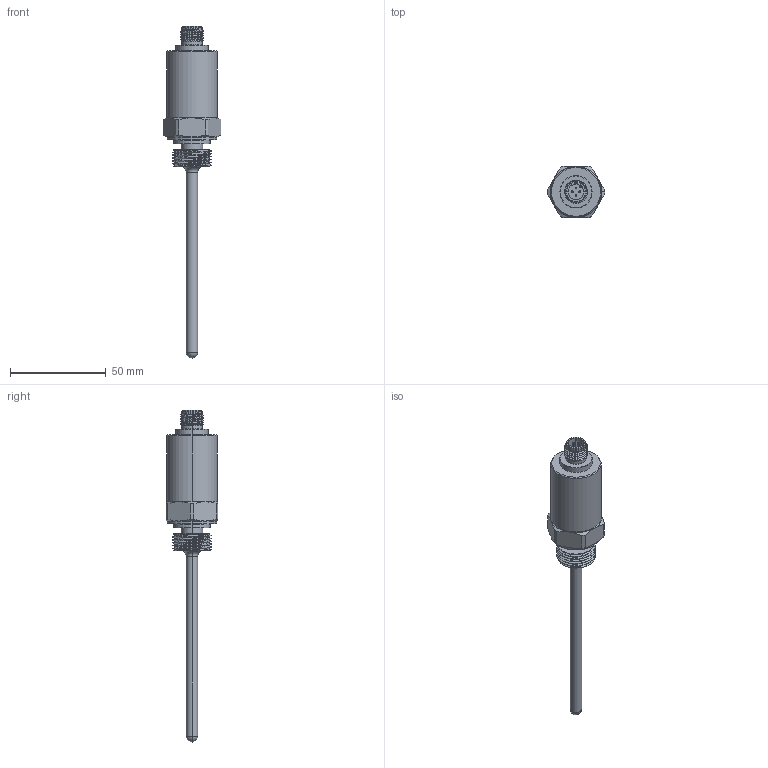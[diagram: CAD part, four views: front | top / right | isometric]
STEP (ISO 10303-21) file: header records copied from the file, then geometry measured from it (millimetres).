
FILE_DESCRIPTION (( 'STEP AP214' ), '1' );
FILE_NAME ('BTS1A33.STEP', '2025-03-11T07:30:05', ( '' ), ( '' ), 'SwSTEP 2.0', 'SolidWorks 2022', '' );
FILE_SCHEMA (( 'AUTOMOTIVE_DESIGN' ));
Length unit declared in the file: millimetre
Products named in the file (1): BTS1A33
Bounding box: 30.18 x 27 x 173.5 mm (x, y, z)
Surface area: 9697.1 mm2 (no closed solid volume)
Topology: 0 solids, 2 shells, 146 faces, 350 edges, 213 vertices
Faces by surface type: cylinder 53, plane 33, cone 24, torus 20, sphere 10, bspline 6
Entity records: 6892 total; most frequent: CARTESIAN_POINT 3415, ORIENTED_EDGE 666, DIRECTION 635, EDGE_CURVE 334, AXIS2_PLACEMENT_3D 275, VERTEX_POINT 207, EDGE_LOOP 162, ADVANCED_FACE 146
